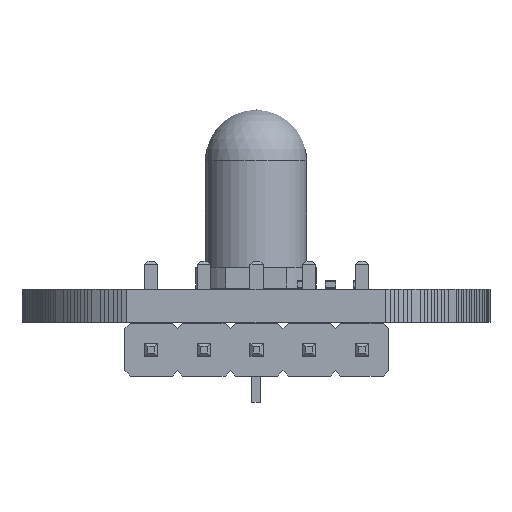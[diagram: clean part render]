
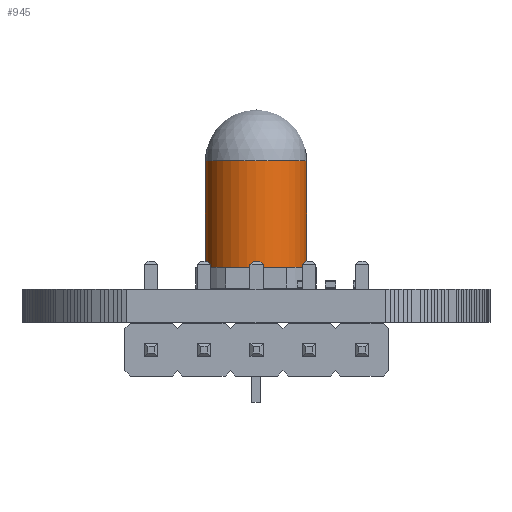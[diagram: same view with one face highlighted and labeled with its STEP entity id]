
A CAD part, front view. The second image highlights one B-rep face of the part: STEP entity #945.
In plain terms, the highlighted cylindrical face has radius 2.45 mm (diameter 4.9 mm), a full revolution.
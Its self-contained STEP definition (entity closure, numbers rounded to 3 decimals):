
#923 = VERTEX_POINT('',#924);
#924 = CARTESIAN_POINT('',(3.72,0.,9.15));
#934 = EDGE_CURVE('',#923,#923,#935,.T.);
#935 = CIRCLE('',#936,2.45);
#936 = AXIS2_PLACEMENT_3D('',#937,#938,#939);
#937 = CARTESIAN_POINT('',(1.27,0.,9.15));
#938 = DIRECTION('',(0.,0.,-1.));
#939 = DIRECTION('',(1.,0.,0.));
#945 = ADVANCED_FACE('',(#946),#965,.T.);
#946 = FACE_BOUND('',#947,.T.);
#947 = EDGE_LOOP('',(#948,#956,#957,#958));
#948 = ORIENTED_EDGE('',*,*,#949,.F.);
#949 = EDGE_CURVE('',#923,#950,#952,.T.);
#950 = VERTEX_POINT('',#951);
#951 = CARTESIAN_POINT('',(3.72,0.,4.));
#952 = LINE('',#953,#954);
#953 = CARTESIAN_POINT('',(3.72,0.,9.15));
#954 = VECTOR('',#955,1.);
#955 = DIRECTION('',(0.,0.,-1.));
#956 = ORIENTED_EDGE('',*,*,#934,.T.);
#957 = ORIENTED_EDGE('',*,*,#949,.T.);
#958 = ORIENTED_EDGE('',*,*,#959,.F.);
#959 = EDGE_CURVE('',#950,#950,#960,.T.);
#960 = CIRCLE('',#961,2.45);
#961 = AXIS2_PLACEMENT_3D('',#962,#963,#964);
#962 = CARTESIAN_POINT('',(1.27,0.,4.));
#963 = DIRECTION('',(0.,0.,-1.));
#964 = DIRECTION('',(1.,0.,0.));
#965 = CYLINDRICAL_SURFACE('',#966,2.45);
#966 = AXIS2_PLACEMENT_3D('',#967,#968,#969);
#967 = CARTESIAN_POINT('',(1.27,0.,9.15));
#968 = DIRECTION('',(0.,0.,-1.));
#969 = DIRECTION('',(1.,0.,0.));
